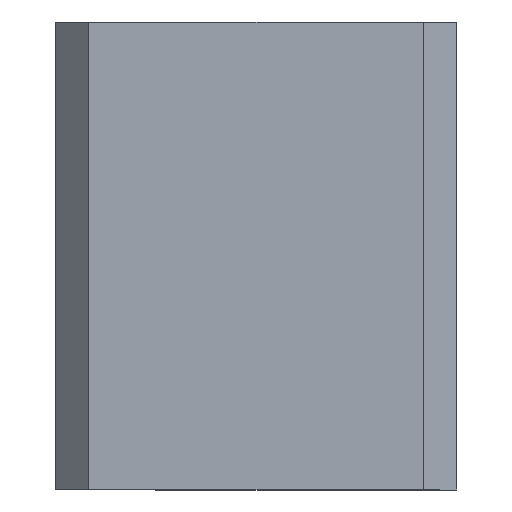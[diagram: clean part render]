
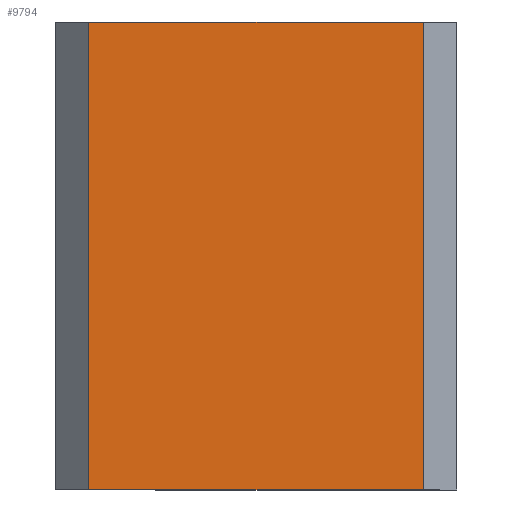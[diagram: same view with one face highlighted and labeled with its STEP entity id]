
A CAD part, front view. The second image highlights one B-rep face of the part: STEP entity #9794.
In plain terms, the highlighted planar face has unit normal (0, -1, 0).
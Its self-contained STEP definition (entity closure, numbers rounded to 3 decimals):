
#9 = EDGE_CURVE ( 'NONE', #3909, #33, #10351, .T. ) ;
#22 = DIRECTION ( 'NONE',  ( -1., 0., 0. ) ) ;
#33 = VERTEX_POINT ( 'NONE', #655 ) ;
#655 = CARTESIAN_POINT ( 'NONE',  ( -13.305, -9.1, -7. ) ) ;
#811 = DIRECTION ( 'NONE',  ( 0., 0., 1. ) ) ;
#851 = EDGE_CURVE ( 'NONE', #3909, #3476, #3263, .T. ) ;
#1191 = LINE ( 'NONE', #10320, #11679 ) ;
#1491 = ORIENTED_EDGE ( 'NONE', *, *, #8701, .F. ) ;
#1708 = VECTOR ( 'NONE', #22, 1000. ) ;
#1882 = DIRECTION ( 'NONE',  ( 0., 1., 0. ) ) ;
#2842 = AXIS2_PLACEMENT_3D ( 'NONE', #10852, #1882, #811 ) ;
#2854 = VECTOR ( 'NONE', #4887, 1000. ) ;
#3168 = CARTESIAN_POINT ( 'NONE',  ( -23.305, -9.1, 7. ) ) ;
#3263 = LINE ( 'NONE', #5417, #1708 ) ;
#3465 = CARTESIAN_POINT ( 'NONE',  ( -23.305, -9.1, -7. ) ) ;
#3476 = VERTEX_POINT ( 'NONE', #3168 ) ;
#3857 = EDGE_LOOP ( 'NONE', ( #7469, #4590, #1491, #10460 ) ) ;
#3909 = VERTEX_POINT ( 'NONE', #9357 ) ;
#4590 = ORIENTED_EDGE ( 'NONE', *, *, #851, .T. ) ;
#4887 = DIRECTION ( 'NONE',  ( 0., 0., 1. ) ) ;
#4961 = DIRECTION ( 'NONE',  ( 1., 0., 0. ) ) ;
#5417 = CARTESIAN_POINT ( 'NONE',  ( -18.305, -9.1, 7. ) ) ;
#6231 = LINE ( 'NONE', #6646, #2854 ) ;
#6646 = CARTESIAN_POINT ( 'NONE',  ( -23.305, -9.1, 0. ) ) ;
#7469 = ORIENTED_EDGE ( 'NONE', *, *, #9, .F. ) ;
#8699 = CARTESIAN_POINT ( 'NONE',  ( -13.305, -9.1, 0. ) ) ;
#8701 = EDGE_CURVE ( 'NONE', #11151, #3476, #6231, .T. ) ;
#8858 = DIRECTION ( 'NONE',  ( 0., 0., -1. ) ) ;
#8972 = PLANE ( 'NONE',  #2842 ) ;
#8977 = VECTOR ( 'NONE', #8858, 1000. ) ;
#9357 = CARTESIAN_POINT ( 'NONE',  ( -13.305, -9.1, 7. ) ) ;
#9445 = FACE_OUTER_BOUND ( 'NONE', #3857, .T. ) ;
#9794 = ADVANCED_FACE ( 'NONE', ( #9445 ), #8972, .F. ) ;
#10078 = EDGE_CURVE ( 'NONE', #11151, #33, #1191, .T. ) ;
#10320 = CARTESIAN_POINT ( 'NONE',  ( -18.305, -9.1, -7. ) ) ;
#10351 = LINE ( 'NONE', #8699, #8977 ) ;
#10460 = ORIENTED_EDGE ( 'NONE', *, *, #10078, .T. ) ;
#10852 = CARTESIAN_POINT ( 'NONE',  ( -23.305, -9.1, -7. ) ) ;
#11151 = VERTEX_POINT ( 'NONE', #3465 ) ;
#11679 = VECTOR ( 'NONE', #4961, 1000. ) ;
